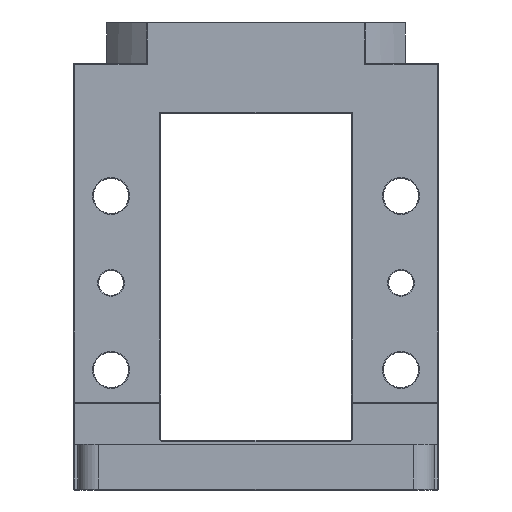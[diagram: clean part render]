
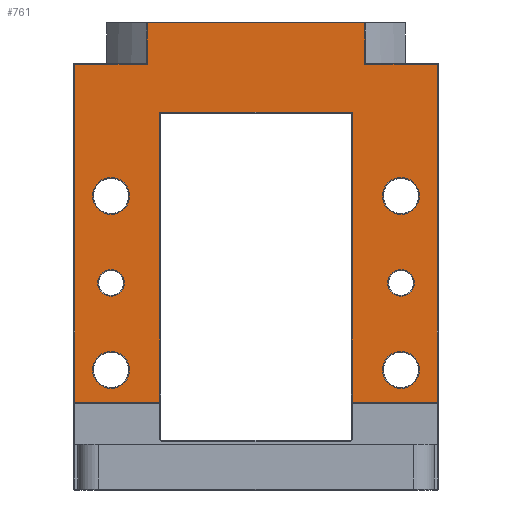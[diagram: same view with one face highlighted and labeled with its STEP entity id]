
A CAD part, front view. The second image highlights one B-rep face of the part: STEP entity #761.
In plain terms, the highlighted planar face has unit normal (0, -1, 0).
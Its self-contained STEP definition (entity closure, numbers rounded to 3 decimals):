
#242=PLANE('',#6368);
#639=FACE_BOUND('',#1597,.T.);
#640=FACE_BOUND('',#1598,.T.);
#641=FACE_BOUND('',#1599,.T.);
#642=FACE_BOUND('',#1600,.T.);
#643=FACE_BOUND('',#1601,.T.);
#644=FACE_BOUND('',#1602,.T.);
#645=FACE_BOUND('',#1603,.T.);
#761=ADVANCED_FACE('',(#639,#640,#641,#642,#643,#644,#645),#242,.F.);
#1597=EDGE_LOOP('',(#2944,#2945));
#1598=EDGE_LOOP('',(#2946,#2947));
#1599=EDGE_LOOP('',(#2948,#2949));
#1600=EDGE_LOOP('',(#2950,#2951));
#1601=EDGE_LOOP('',(#2952,#2953));
#1602=EDGE_LOOP('',(#2954,#2955));
#1603=EDGE_LOOP('',(#2956,#2957,#2958,#2959,#2960,#2961,#2962,#2963,#2964,
#2965,#2966,#2967));
#2049=LINE('',#8906,#2394);
#2050=LINE('',#8909,#2395);
#2051=LINE('',#8911,#2396);
#2052=LINE('',#8913,#2397);
#2053=LINE('',#8915,#2398);
#2054=LINE('',#8917,#2399);
#2055=LINE('',#8919,#2400);
#2056=LINE('',#8921,#2401);
#2057=LINE('',#8923,#2402);
#2058=LINE('',#8925,#2403);
#2059=LINE('',#8927,#2404);
#2060=LINE('',#8929,#2405);
#2394=VECTOR('',#7287,1.);
#2395=VECTOR('',#7288,1.);
#2396=VECTOR('',#7289,1.);
#2397=VECTOR('',#7290,1.);
#2398=VECTOR('',#7291,1.);
#2399=VECTOR('',#7292,1.);
#2400=VECTOR('',#7293,1.);
#2401=VECTOR('',#7294,1.);
#2402=VECTOR('',#7295,1.);
#2403=VECTOR('',#7296,1.);
#2404=VECTOR('',#7297,1.);
#2405=VECTOR('',#7298,1.);
#2944=ORIENTED_EDGE('',*,*,#5095,.T.);
#2945=ORIENTED_EDGE('',*,*,#5233,.T.);
#2946=ORIENTED_EDGE('',*,*,#5091,.T.);
#2947=ORIENTED_EDGE('',*,*,#5234,.T.);
#2948=ORIENTED_EDGE('',*,*,#5087,.T.);
#2949=ORIENTED_EDGE('',*,*,#5235,.T.);
#2950=ORIENTED_EDGE('',*,*,#5083,.T.);
#2951=ORIENTED_EDGE('',*,*,#5236,.T.);
#2952=ORIENTED_EDGE('',*,*,#5079,.T.);
#2953=ORIENTED_EDGE('',*,*,#5237,.T.);
#2954=ORIENTED_EDGE('',*,*,#5076,.T.);
#2955=ORIENTED_EDGE('',*,*,#5238,.T.);
#2956=ORIENTED_EDGE('',*,*,#5239,.T.);
#2957=ORIENTED_EDGE('',*,*,#5240,.T.);
#2958=ORIENTED_EDGE('',*,*,#5241,.T.);
#2959=ORIENTED_EDGE('',*,*,#5242,.T.);
#2960=ORIENTED_EDGE('',*,*,#5243,.T.);
#2961=ORIENTED_EDGE('',*,*,#5244,.T.);
#2962=ORIENTED_EDGE('',*,*,#5245,.T.);
#2963=ORIENTED_EDGE('',*,*,#5246,.T.);
#2964=ORIENTED_EDGE('',*,*,#5247,.T.);
#2965=ORIENTED_EDGE('',*,*,#5248,.T.);
#2966=ORIENTED_EDGE('',*,*,#5249,.T.);
#2967=ORIENTED_EDGE('',*,*,#5250,.T.);
#4534=VERTEX_POINT('',#8589);
#4535=VERTEX_POINT('',#8591);
#4536=VERTEX_POINT('',#8595);
#4537=VERTEX_POINT('',#8597);
#4540=VERTEX_POINT('',#8604);
#4541=VERTEX_POINT('',#8606);
#4544=VERTEX_POINT('',#8613);
#4545=VERTEX_POINT('',#8615);
#4548=VERTEX_POINT('',#8622);
#4549=VERTEX_POINT('',#8624);
#4552=VERTEX_POINT('',#8631);
#4553=VERTEX_POINT('',#8633);
#4636=VERTEX_POINT('',#8907);
#4637=VERTEX_POINT('',#8908);
#4638=VERTEX_POINT('',#8910);
#4639=VERTEX_POINT('',#8912);
#4640=VERTEX_POINT('',#8914);
#4641=VERTEX_POINT('',#8916);
#4642=VERTEX_POINT('',#8918);
#4643=VERTEX_POINT('',#8920);
#4644=VERTEX_POINT('',#8922);
#4645=VERTEX_POINT('',#8924);
#4646=VERTEX_POINT('',#8926);
#4647=VERTEX_POINT('',#8928);
#5076=EDGE_CURVE('',#4535,#4534,#5942,.T.);
#5079=EDGE_CURVE('',#4537,#4536,#5945,.T.);
#5083=EDGE_CURVE('',#4541,#4540,#5949,.T.);
#5087=EDGE_CURVE('',#4545,#4544,#5953,.T.);
#5091=EDGE_CURVE('',#4549,#4548,#5957,.T.);
#5095=EDGE_CURVE('',#4553,#4552,#5961,.T.);
#5233=EDGE_CURVE('',#4552,#4553,#6012,.T.);
#5234=EDGE_CURVE('',#4548,#4549,#6013,.T.);
#5235=EDGE_CURVE('',#4544,#4545,#6014,.T.);
#5236=EDGE_CURVE('',#4540,#4541,#6015,.T.);
#5237=EDGE_CURVE('',#4536,#4537,#6016,.T.);
#5238=EDGE_CURVE('',#4534,#4535,#6017,.T.);
#5239=EDGE_CURVE('',#4636,#4637,#2049,.T.);
#5240=EDGE_CURVE('',#4637,#4638,#2050,.T.);
#5241=EDGE_CURVE('',#4638,#4639,#2051,.T.);
#5242=EDGE_CURVE('',#4639,#4640,#2052,.T.);
#5243=EDGE_CURVE('',#4640,#4641,#2053,.T.);
#5244=EDGE_CURVE('',#4641,#4642,#2054,.T.);
#5245=EDGE_CURVE('',#4642,#4643,#2055,.T.);
#5246=EDGE_CURVE('',#4643,#4644,#2056,.T.);
#5247=EDGE_CURVE('',#4644,#4645,#2057,.T.);
#5248=EDGE_CURVE('',#4645,#4646,#2058,.T.);
#5249=EDGE_CURVE('',#4646,#4647,#2059,.T.);
#5250=EDGE_CURVE('',#4647,#4636,#2060,.T.);
#5942=CIRCLE('',#6250,3.2);
#5945=CIRCLE('',#6254,3.2);
#5949=CIRCLE('',#6259,4.45);
#5953=CIRCLE('',#6264,4.45);
#5957=CIRCLE('',#6269,4.45);
#5961=CIRCLE('',#6274,4.45);
#6012=CIRCLE('',#6362,4.45);
#6013=CIRCLE('',#6363,4.45);
#6014=CIRCLE('',#6364,4.45);
#6015=CIRCLE('',#6365,4.45);
#6016=CIRCLE('',#6366,3.2);
#6017=CIRCLE('',#6367,3.2);
#6250=AXIS2_PLACEMENT_3D('',#8590,#6966,#6967);
#6254=AXIS2_PLACEMENT_3D('',#8596,#6974,#6975);
#6259=AXIS2_PLACEMENT_3D('',#8605,#6984,#6985);
#6264=AXIS2_PLACEMENT_3D('',#8614,#6994,#6995);
#6269=AXIS2_PLACEMENT_3D('',#8623,#7004,#7005);
#6274=AXIS2_PLACEMENT_3D('',#8632,#7014,#7015);
#6362=AXIS2_PLACEMENT_3D('',#8900,#7275,#7276);
#6363=AXIS2_PLACEMENT_3D('',#8901,#7277,#7278);
#6364=AXIS2_PLACEMENT_3D('',#8902,#7279,#7280);
#6365=AXIS2_PLACEMENT_3D('',#8903,#7281,#7282);
#6366=AXIS2_PLACEMENT_3D('',#8904,#7283,#7284);
#6367=AXIS2_PLACEMENT_3D('',#8905,#7285,#7286);
#6368=AXIS2_PLACEMENT_3D('',#8930,#7299,#7300);
#6966=DIRECTION('',(0.,1.,0.));
#6967=DIRECTION('',(0.,0.,1.));
#6974=DIRECTION('',(0.,1.,0.));
#6975=DIRECTION('',(0.,0.,1.));
#6984=DIRECTION('',(0.,1.,0.));
#6985=DIRECTION('',(0.,0.,1.));
#6994=DIRECTION('',(0.,1.,0.));
#6995=DIRECTION('',(0.,0.,1.));
#7004=DIRECTION('',(0.,1.,0.));
#7005=DIRECTION('',(0.,0.,1.));
#7014=DIRECTION('',(0.,1.,0.));
#7015=DIRECTION('',(0.,0.,1.));
#7275=DIRECTION('',(0.,1.,0.));
#7276=DIRECTION('',(0.,0.,1.));
#7277=DIRECTION('',(0.,1.,0.));
#7278=DIRECTION('',(0.,0.,1.));
#7279=DIRECTION('',(0.,1.,0.));
#7280=DIRECTION('',(0.,0.,1.));
#7281=DIRECTION('',(0.,1.,0.));
#7282=DIRECTION('',(0.,0.,1.));
#7283=DIRECTION('',(0.,1.,0.));
#7284=DIRECTION('',(0.,0.,1.));
#7285=DIRECTION('',(0.,1.,0.));
#7286=DIRECTION('',(0.,0.,1.));
#7287=DIRECTION('',(1.,0.,0.));
#7288=DIRECTION('',(0.,0.,1.));
#7289=DIRECTION('',(-1.,0.,0.));
#7290=DIRECTION('',(0.,0.,1.));
#7291=DIRECTION('',(-1.,0.,0.));
#7292=DIRECTION('',(0.,0.,-1.));
#7293=DIRECTION('',(-1.,0.,0.));
#7294=DIRECTION('',(0.,0.,-1.));
#7295=DIRECTION('',(1.,0.,0.));
#7296=DIRECTION('',(0.,0.,1.));
#7297=DIRECTION('',(1.,0.,0.));
#7298=DIRECTION('',(0.,0.,-1.));
#7299=DIRECTION('',(0.,1.,0.));
#7300=DIRECTION('',(0.,0.,-1.));
#8589=CARTESIAN_POINT('',(-35.,-34.,40.8));
#8590=CARTESIAN_POINT('',(-35.,-34.,44.));
#8591=CARTESIAN_POINT('',(-35.,-34.,47.2));
#8595=CARTESIAN_POINT('',(35.,-34.,40.8));
#8596=CARTESIAN_POINT('',(35.,-34.,44.));
#8597=CARTESIAN_POINT('',(35.,-34.,47.2));
#8604=CARTESIAN_POINT('',(-35.,-34.,18.55));
#8605=CARTESIAN_POINT('',(-35.,-34.,23.));
#8606=CARTESIAN_POINT('',(-35.,-34.,27.45));
#8613=CARTESIAN_POINT('',(35.,-34.,18.55));
#8614=CARTESIAN_POINT('',(35.,-34.,23.));
#8615=CARTESIAN_POINT('',(35.,-34.,27.45));
#8622=CARTESIAN_POINT('',(35.,-34.,60.55));
#8623=CARTESIAN_POINT('',(35.,-34.,65.));
#8624=CARTESIAN_POINT('',(35.,-34.,69.45));
#8631=CARTESIAN_POINT('',(-35.,-34.,60.55));
#8632=CARTESIAN_POINT('',(-35.,-34.,65.));
#8633=CARTESIAN_POINT('',(-35.,-34.,69.45));
#8900=CARTESIAN_POINT('',(-35.,-34.,65.));
#8901=CARTESIAN_POINT('',(35.,-34.,65.));
#8902=CARTESIAN_POINT('',(35.,-34.,23.));
#8903=CARTESIAN_POINT('',(-35.,-34.,23.));
#8904=CARTESIAN_POINT('',(35.,-34.,44.));
#8905=CARTESIAN_POINT('',(-35.,-34.,44.));
#8906=CARTESIAN_POINT('',(43.,-34.,15.2));
#8907=CARTESIAN_POINT('',(23.2,-34.,15.2));
#8908=CARTESIAN_POINT('',(43.8,-34.,15.2));
#8909=CARTESIAN_POINT('',(43.8,-34.,97.));
#8910=CARTESIAN_POINT('',(43.8,-34.,96.8));
#8911=CARTESIAN_POINT('',(26.325,-34.,96.8));
#8912=CARTESIAN_POINT('',(26.256,-34.,96.8));
#8913=CARTESIAN_POINT('',(26.256,-34.,107.));
#8914=CARTESIAN_POINT('',(26.256,-34.,106.8));
#8915=CARTESIAN_POINT('',(-26.325,-34.,106.8));
#8916=CARTESIAN_POINT('',(-26.256,-34.,106.8));
#8917=CARTESIAN_POINT('',(-26.256,-34.,97.));
#8918=CARTESIAN_POINT('',(-26.256,-34.,96.8));
#8919=CARTESIAN_POINT('',(-44.,-34.,96.8));
#8920=CARTESIAN_POINT('',(-43.8,-34.,96.8));
#8921=CARTESIAN_POINT('',(-43.8,-34.,97.));
#8922=CARTESIAN_POINT('',(-43.8,-34.,15.2));
#8923=CARTESIAN_POINT('',(43.,-34.,15.2));
#8924=CARTESIAN_POINT('',(-23.2,-34.,15.2));
#8925=CARTESIAN_POINT('',(-23.2,-34.,97.));
#8926=CARTESIAN_POINT('',(-23.2,-34.,85.2));
#8927=CARTESIAN_POINT('',(23.,-34.,85.2));
#8928=CARTESIAN_POINT('',(23.2,-34.,85.2));
#8929=CARTESIAN_POINT('',(23.2,-34.,15.));
#8930=CARTESIAN_POINT('',(43.,-34.,97.));
